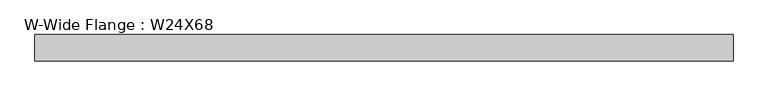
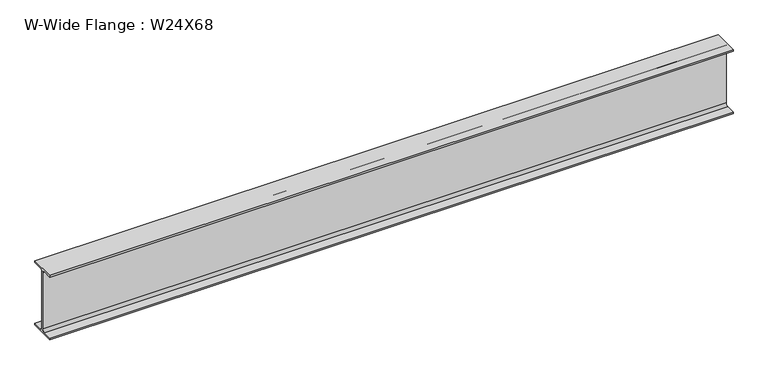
"""IFC4 building model written with IfcOpenShell, lengths in millimetres: beam geometry, W-Wide Flange : W24X68."""

from ifc_helpers import new_model, si_unit, point, frame, frame_2d, origin, place, context, project, spatial, polyline, circle_curve, trimmed, segment, composite_curve, outline, extrude, source, transform, mapped, element, save


def w_wide_flange_w24x68_eee0bb9b(model_context):
    return source(origin(), model_context, "Body", "SweptSolid", [
        extrude(outline(composite_curve([segment(polyline([(113.919, -286.131), (113.919, -300.99), (-113.919, -300.99), (-113.919, -286.131), (-28.5115, -286.131)]), True, "CONTINUOUS"), segment(trimmed(circle_curve(frame_2d((-28.5115, -262.89)), 23.241), [point((-28.5115, -286.131))], [point((-5.2705, -262.89))], True, "CARTESIAN"), True, "CONTINUOUS"), segment(polyline([(-5.2705, -262.89), (-5.2705, 262.89)]), True, "CONTINUOUS"), segment(trimmed(circle_curve(frame_2d((-28.5115, 262.89)), 23.241), [point((-5.2705, 262.89))], [point((-28.5115, 286.131))], True, "CARTESIAN"), True, "CONTINUOUS"), segment(polyline([(-28.5115, 286.131), (-113.919, 286.131), (-113.919, 300.99), (113.919, 300.99), (113.919, 286.131), (28.5115, 286.131)]), True, "CONTINUOUS"), segment(trimmed(circle_curve(frame_2d((28.5115, 262.89)), 23.241), [point((28.5115, 286.131))], [point((5.2705, 262.89))], True, "CARTESIAN"), True, "CONTINUOUS"), segment(polyline([(5.2705, 262.89), (5.2705, -262.89)]), True, "CONTINUOUS"), segment(trimmed(circle_curve(frame_2d((28.5115, -262.89)), 23.241), [point((5.2705, -262.89))], [point((28.5115, -286.131))], True, "CARTESIAN"), True, "CONTINUOUS"), segment(polyline([(28.5115, -286.131), (113.919, -286.131)]), True, "CONTINUOUS")], self_intersect=False)), frame((-3085.30625, 0.0, 0.0), z_axis=(1.0, 0.0, 0.0), x_axis=(0.0, 1.0, 0.0)), (0.0, 0.0, 1.0), 6061.075),
    ])


if __name__ == "__main__":
    model = new_model("IFC4")
    model_context = context("Model", 3, world=origin())
    ifc_project = project(units=[si_unit("LENGTHUNIT", "METRE", prefix="MILLI")], contexts=[model_context])
    site = spatial("IfcSite", under=ifc_project)
    building = spatial("IfcBuilding", under=site)
    placement = place(None, origin())
    w_wide_flange_w24x68_shape = w_wide_flange_w24x68_eee0bb9b(model_context)
    element("IfcBeam", 1, ObjectType="W-Wide Flange : W24X68", at=placement, inside=building, context=model_context, shape_type="MappedRepresentation", body=[
        mapped(w_wide_flange_w24x68_shape, transform((0.0, 0.0, 0.0), x_axis=(1.0, 0.0, 0.0), y_axis=(0.0, 1.0, 0.0), z_axis=(0.0, 0.0, 1.0))),
    ])
    save(model, "model.ifc")
